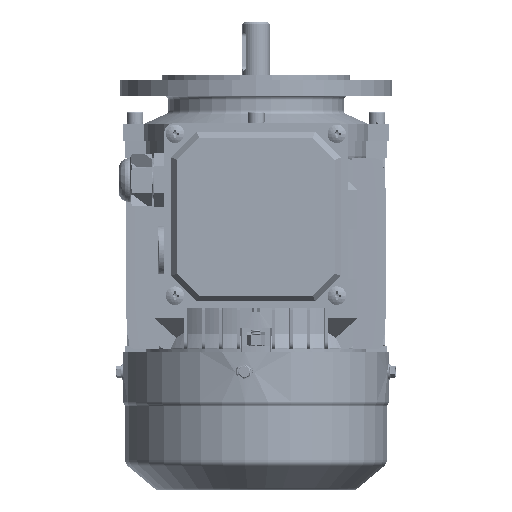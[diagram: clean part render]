
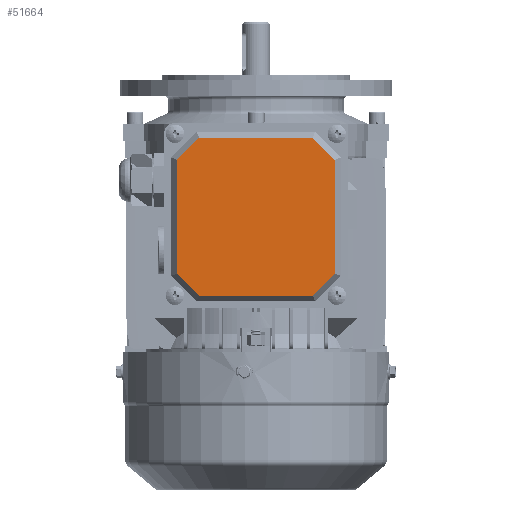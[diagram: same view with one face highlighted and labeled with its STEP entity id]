
A CAD part, left-side view. The second image highlights one B-rep face of the part: STEP entity #51664.
In plain terms, the highlighted planar face has unit normal (-1, 0, 0) as drawn and (0, 1, 0) by its records, which use the part's own axes.
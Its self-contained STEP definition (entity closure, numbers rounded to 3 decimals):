
#3359 = VERTEX_POINT ( 'NONE', #14541 ) ;
#5678 = EDGE_CURVE ( 'NONE', #130325, #67249, #33923, .T. ) ;
#6861 = DIRECTION ( 'NONE',  ( -0.707, 0., 0.707 ) ) ;
#7564 = DIRECTION ( 'NONE',  ( -1., 0., 0. ) ) ;
#8300 = ORIENTED_EDGE ( 'NONE', *, *, #5678, .T. ) ;
#9989 = DIRECTION ( 'NONE',  ( -0.707, 0., -0.707 ) ) ;
#10070 = VECTOR ( 'NONE', #7564, 1000. ) ;
#13955 = CARTESIAN_POINT ( 'NONE',  ( -29.15, 6., 40.5 ) ) ;
#14129 = ORIENTED_EDGE ( 'NONE', *, *, #74003, .T. ) ;
#14170 = LINE ( 'NONE', #37264, #125801 ) ;
#14541 = CARTESIAN_POINT ( 'NONE',  ( -40.5, 6., -29.15 ) ) ;
#16048 = DIRECTION ( 'NONE',  ( 0., 0., -1. ) ) ;
#18279 = CARTESIAN_POINT ( 'NONE',  ( 0., 6., 0. ) ) ;
#19570 = CARTESIAN_POINT ( 'NONE',  ( -34.825, 6., 34.825 ) ) ;
#22494 = FACE_OUTER_BOUND ( 'NONE', #57863, .T. ) ;
#28298 = ORIENTED_EDGE ( 'NONE', *, *, #111272, .T. ) ;
#29101 = DIRECTION ( 'NONE',  ( 0., 0., -1. ) ) ;
#32911 = EDGE_CURVE ( 'NONE', #139241, #130325, #40989, .T. ) ;
#33251 = VERTEX_POINT ( 'NONE', #69187 ) ;
#33923 = LINE ( 'NONE', #63948, #110099 ) ;
#34778 = CARTESIAN_POINT ( 'NONE',  ( 34.825, 6., 34.825 ) ) ;
#37264 = CARTESIAN_POINT ( 'NONE',  ( 40.5, 6., 0. ) ) ;
#40956 = VERTEX_POINT ( 'NONE', #48132 ) ;
#40989 = LINE ( 'NONE', #19570, #44438 ) ;
#44438 = VECTOR ( 'NONE', #95225, 1000. ) ;
#48132 = CARTESIAN_POINT ( 'NONE',  ( -29.15, 6., -40.5 ) ) ;
#51664 = ADVANCED_FACE ( 'NONE', ( #22494 ), #104375, .F. ) ;
#54501 = EDGE_CURVE ( 'NONE', #83213, #40956, #67644, .T. ) ;
#57863 = EDGE_LOOP ( 'NONE', ( #14129, #79197, #133873, #130525, #28298, #121378, #75492, #8300 ) ) ;
#61049 = CARTESIAN_POINT ( 'NONE',  ( 0., 6., -40.5 ) ) ;
#62556 = LINE ( 'NONE', #74812, #91259 ) ;
#63948 = CARTESIAN_POINT ( 'NONE',  ( 0., 6., 40.5 ) ) ;
#67249 = VERTEX_POINT ( 'NONE', #103818 ) ;
#67605 = EDGE_CURVE ( 'NONE', #3359, #139241, #88266, .T. ) ;
#67644 = LINE ( 'NONE', #61049, #10070 ) ;
#69187 = CARTESIAN_POINT ( 'NONE',  ( 40.5, 6., 29.15 ) ) ;
#69417 = CARTESIAN_POINT ( 'NONE',  ( -40.5, 6., 29.15 ) ) ;
#71690 = CARTESIAN_POINT ( 'NONE',  ( -34.825, 6., -34.825 ) ) ;
#74003 = EDGE_CURVE ( 'NONE', #67249, #33251, #103935, .T. ) ;
#74025 = LINE ( 'NONE', #71690, #102727 ) ;
#74812 = CARTESIAN_POINT ( 'NONE',  ( 34.825, 6., -34.825 ) ) ;
#75492 = ORIENTED_EDGE ( 'NONE', *, *, #32911, .T. ) ;
#77686 = CARTESIAN_POINT ( 'NONE',  ( -40.5, 6., 0. ) ) ;
#79197 = ORIENTED_EDGE ( 'NONE', *, *, #89285, .T. ) ;
#83213 = VERTEX_POINT ( 'NONE', #100811 ) ;
#85009 = CARTESIAN_POINT ( 'NONE',  ( 40.5, 6., -29.15 ) ) ;
#88266 = LINE ( 'NONE', #77686, #91649 ) ;
#89285 = EDGE_CURVE ( 'NONE', #33251, #118334, #14170, .T. ) ;
#90964 = EDGE_CURVE ( 'NONE', #118334, #83213, #62556, .T. ) ;
#91259 = VECTOR ( 'NONE', #9989, 1000. ) ;
#91649 = VECTOR ( 'NONE', #120703, 1000. ) ;
#93948 = DIRECTION ( 'NONE',  ( 0., -1., 0. ) ) ;
#95225 = DIRECTION ( 'NONE',  ( 0.707, 0., 0.707 ) ) ;
#100494 = VECTOR ( 'NONE', #121374, 1000. ) ;
#100811 = CARTESIAN_POINT ( 'NONE',  ( 29.15, 6., -40.5 ) ) ;
#102727 = VECTOR ( 'NONE', #6861, 1000. ) ;
#103818 = CARTESIAN_POINT ( 'NONE',  ( 29.15, 6., 40.5 ) ) ;
#103935 = LINE ( 'NONE', #34778, #100494 ) ;
#104375 = PLANE ( 'NONE',  #134958 ) ;
#110099 = VECTOR ( 'NONE', #117807, 1000. ) ;
#111272 = EDGE_CURVE ( 'NONE', #40956, #3359, #74025, .T. ) ;
#117807 = DIRECTION ( 'NONE',  ( 1., 0., 0. ) ) ;
#118334 = VERTEX_POINT ( 'NONE', #85009 ) ;
#120703 = DIRECTION ( 'NONE',  ( 0., 0., 1. ) ) ;
#121374 = DIRECTION ( 'NONE',  ( 0.707, 0., -0.707 ) ) ;
#121378 = ORIENTED_EDGE ( 'NONE', *, *, #67605, .T. ) ;
#125801 = VECTOR ( 'NONE', #16048, 1000. ) ;
#130325 = VERTEX_POINT ( 'NONE', #13955 ) ;
#130525 = ORIENTED_EDGE ( 'NONE', *, *, #54501, .T. ) ;
#133873 = ORIENTED_EDGE ( 'NONE', *, *, #90964, .T. ) ;
#134958 = AXIS2_PLACEMENT_3D ( 'NONE', #18279, #93948, #29101 ) ;
#139241 = VERTEX_POINT ( 'NONE', #69417 ) ;
